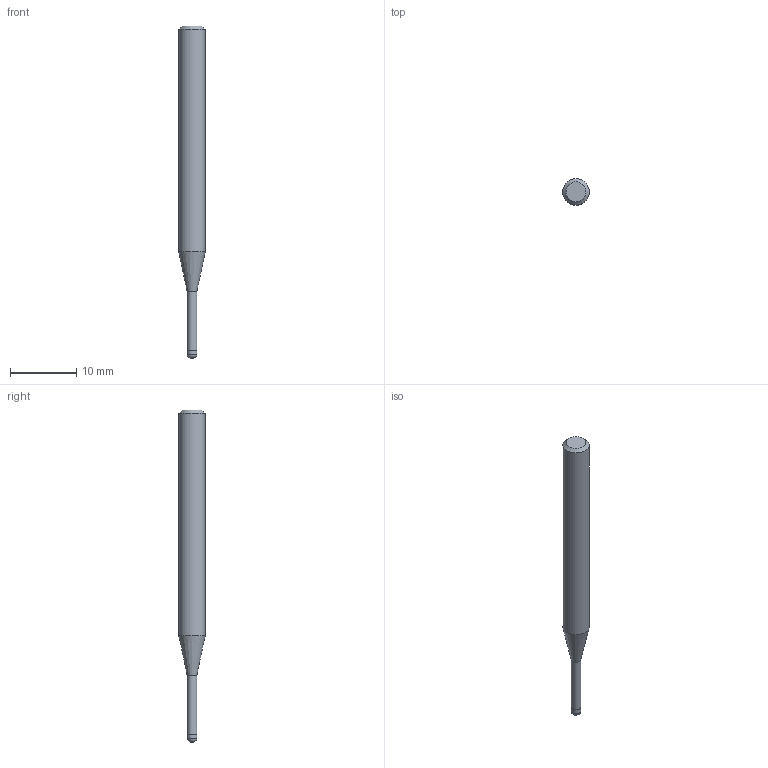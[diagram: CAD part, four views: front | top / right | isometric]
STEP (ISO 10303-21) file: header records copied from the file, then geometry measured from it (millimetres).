
FILE_DESCRIPTION((''),'2;1');
FILE_NAME('C:\Users\nsx150\AppData\Local\Temp\Mastercam 2021\17T8Q8S9EB\TEMP.step','2021-04-21T14:36:25',(''),(''),'STEP Write','Mastercam 2021 ... CNC Software, Inc.','');
FILE_SCHEMA(('AUTOMOTIVE_DESIGN'));
Length unit declared in the file: millimetre
Products named in the file (1): None
Bounding box: 4 x 4 x 50 mm (x, y, z)
Volume: 479.8 mm3; surface area: 538.1 mm2
Topology: 2 solids, 2 shells, 10 faces, 14 edges, 8 vertices
Faces by surface type: plane 4, cylinder 3, cone 2, torus 1
Full cylindrical faces by diameter (mm): 1.45 x1, 1.5 x1, 4 x1
Entity records: 232 total; most frequent: DIRECTION 40, CARTESIAN_POINT 28, AXIS2_PLACEMENT_3D 20, ORIENTED_EDGE 16, EDGE_LOOP 16, STYLED_ITEM 13, ADVANCED_FACE 10, FACE_BOUND 10
